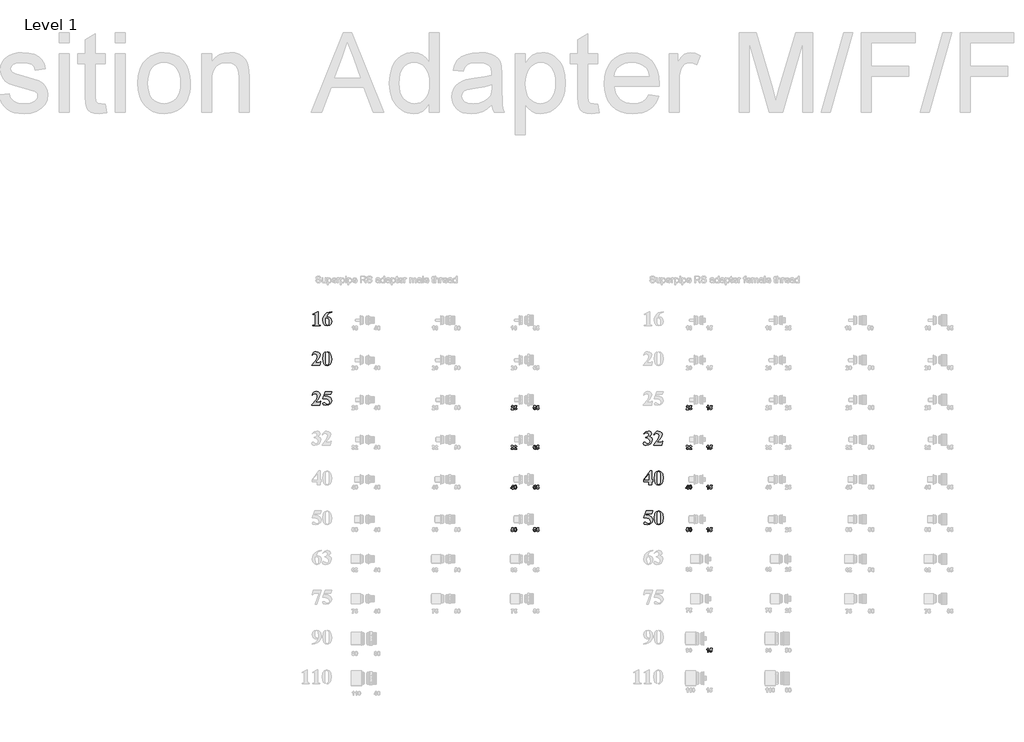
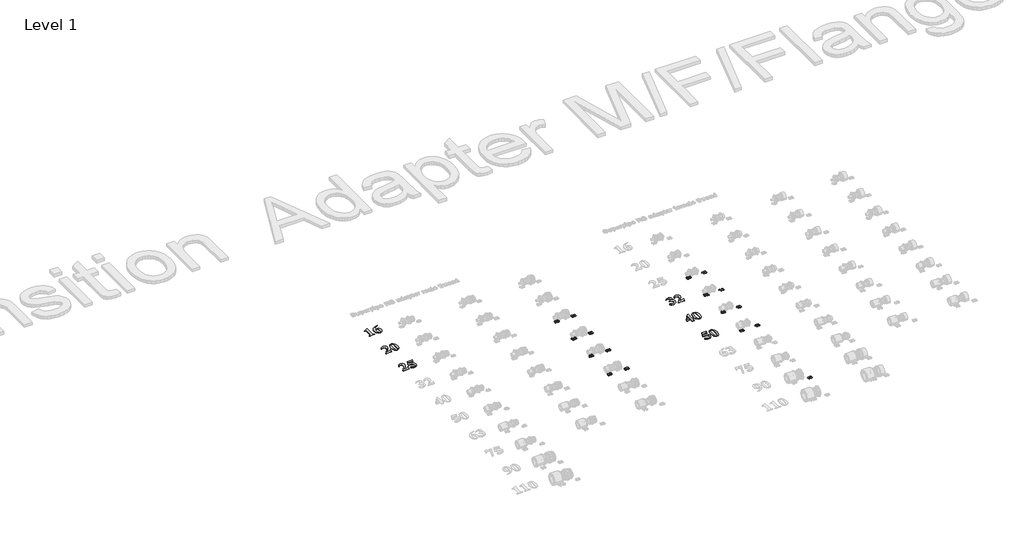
# One storey, part 34 of 57: 23 proxies.
"""IFC4 building model written with IfcOpenShell, lengths in millimetres."""

from ifc_helpers import new_model, si_unit, frame, origin, place, context, project, spatial, polyline, outline, extrude, element, save

model = new_model("IFC4")

# Units and contexts
model_context = context("Model", 3, world=origin())
ifc_project = project(units=[si_unit("LENGTHUNIT", "METRE", prefix="MILLI")], contexts=[model_context])

# Site, building, storey
site = spatial("IfcSite", under=ifc_project)
building = spatial("IfcBuilding", under=site)
storey = spatial("IfcBuildingStorey", under=building, Name="Level 1", Elevation=27.3876384)

# Proxies
placement = place(None, origin())
element("IfcBuildingElementProxy", 1, Name="100mm Arial", ObjectType="100mm Arial", at=placement, inside=storey, context=model_context, shape_type="SweptSolid", body=[
    extrude(outline(polyline([(28828.8058204, 18710.8916255), (28828.8058204, 18627.1351635), (28829.6646513, 18615.4387044), (28833.277194, 18611.2945045), (28842.0836189, 18609.6859006), (28844.510157, 18609.6859006), (28844.510157, 18606.196048), (28788.6725157, 18606.196048), (28788.6725157, 18609.6859006), (28791.4807564, 18609.6859006), (28801.1869089, 18611.1581821), (28805.0993608, 18615.1933242), (28806.1217786, 18627.1351635), (28806.1217786, 18679.4829522), (28805.4674312, 18688.1394225), (28803.0408931, 18691.1248823), (28798.9512221, 18692.3790481), (28789.9812104, 18689.95251), (28788.6725157, 18693.4423626), (28826.3247533, 18710.8916255), (28828.8058204, 18710.8916255)])), frame((0.0, 0.0, 27.3876384), z_axis=(0.0, 0.0, 1.0), x_axis=(1.0, 0.0, 0.0)), (0.0, 0.0, 1.0), 2.0),
    extrude(outline(polyline([(28930.0115453, 18710.8916255), (28930.0115453, 18709.1466992), (28907.9954831, 18700.0676296), (28894.8812715, 18686.5717153), (28887.424438, 18666.91403), (28892.9863906, 18669.4496261), (28902.9651878, 18670.7583208), (28913.5881082, 18668.7032611), (28922.2820671, 18662.5380821), (28928.0791758, 18652.8285215), (28930.0115453, 18640.1403172), (28925.7719197, 18621.8458556), (28913.748287, 18608.9906565), (28897.103326, 18604.4511217), (28879.299625, 18609.6313716), (28866.5398515, 18624.804051), (28861.9594199, 18646.520204), (28864.0621924, 18663.1481247), (28870.37051, 18678.5150634), (28880.5469746, 18691.7519652), (28894.2541886, 18701.989775), (28910.9298221, 18708.5843694), (28930.0115453, 18710.8916255)]), holes=[polyline([(28886.388388, 18661.2975485), (28884.6434617, 18646.1112369), (28886.8382518, 18626.0582168), (28892.8500682, 18612.4668768), (28899.3117484, 18609.6859006), (28906.08697, 18613.7074104), (28909.0724298, 18630.0524621), (28907.7501029, 18647.5698862), (28903.783122, 18658.6801591), (28894.5949945, 18663.7786156), (28886.388388, 18661.2975485)])]), frame((0.0, 0.0, 27.3876384), z_axis=(0.0, 0.0, 1.0), x_axis=(1.0, 0.0, 0.0)), (0.0, 0.0, 1.0), 2.0),
])
element("IfcBuildingElementProxy", 2, Name="100mm Arial", ObjectType="100mm Arial", at=placement, inside=storey, context=model_context, shape_type="SweptSolid", body=[
    extrude(outline(polyline([(28841.8109742, 18306.196048), (28779.9478842, 18306.196048), (28779.9478842, 18307.9409743), (28815.7188732, 18352.5456526), (28821.8261152, 18374.9297852), (28816.6049686, 18388.166687), (28803.8588273, 18393.4423626), (28792.8712446, 18390.5114317), (28784.6646381, 18381.718639), (28781.8563973, 18382.7274246), (28787.1150326, 18395.2281856), (28794.5480097, 18403.9937137), (28803.725913, 18409.1671476), (28814.2193272, 18410.8916255), (28828.7512914, 18407.3063472), (28839.0436301, 18397.4911369), (28842.7652307, 18385.80831), (28837.2578071, 18365.6598643), (28825.2546227, 18349.1171451), (28804.3495878, 18327.1351635), (28826.3247533, 18327.1351635), (28836.8624723, 18327.7349819), (28840.8703498, 18329.7798174), (28845.0009175, 18335.8597949), (28848.0000096, 18335.8597949), (28841.8109742, 18306.196048)])), frame((0.0, 0.0, 27.3876384), z_axis=(0.0, 0.0, 1.0), x_axis=(1.0, 0.0, 0.0)), (0.0, 0.0, 1.0), 2.0),
    extrude(outline(polyline([(28930.0115453, 18357.6713736), (28925.5674362, 18329.0982056), (28918.4514086, 18315.7658781), (28908.3090246, 18307.5047427), (28895.9582182, 18304.4511217), (28882.1760269, 18308.213619), (28871.2838698, 18319.0103504), (28865.3129502, 18332.6425871), (28861.9594199, 18356.4717368), (28866.7852317, 18387.0624758), (28871.7746303, 18397.2491647), (28878.8361289, 18404.7434868), (28895.9582182, 18410.8916255), (28913.0939396, 18404.8252802), (28924.8040309, 18388.5074929), (28930.0115453, 18357.6713736)]), holes=[polyline([(28907.3275035, 18357.6713736), (28906.9730654, 18389.0255179), (28902.8561299, 18403.2303085), (28895.9036892, 18405.6568466), (28890.0690919, 18403.8301269), (28885.7613051, 18394.505677), (28884.6434617, 18347.8561632), (28886.3611236, 18318.6831767), (28890.0554597, 18311.498988), (28896.4217142, 18309.6859006), (28902.8561299, 18312.1124387), (28906.9730654, 18325.1721214), (28907.3275035, 18357.6713736)])]), frame((0.0, 0.0, 27.3876384), z_axis=(0.0, 0.0, 1.0), x_axis=(1.0, 0.0, 0.0)), (0.0, 0.0, 1.0), 2.0),
])
element("IfcBuildingElementProxy", 3, Name="100mm Arial", ObjectType="100mm Arial", at=placement, inside=storey, context=model_context, shape_type="SweptSolid", body=[
    extrude(outline(polyline([(28841.8109742, 18006.196048), (28779.9478842, 18006.196048), (28779.9478842, 18007.9409743), (28815.7188732, 18052.5456526), (28821.8261152, 18074.9297852), (28816.6049686, 18088.166687), (28803.8588273, 18093.4423626), (28792.8712446, 18090.5114317), (28784.6646381, 18081.718639), (28781.8563973, 18082.7274246), (28787.1150326, 18095.2281856), (28794.5480097, 18103.9937137), (28803.725913, 18109.1671476), (28814.2193272, 18110.8916255), (28828.7512914, 18107.3063472), (28839.0436301, 18097.4911369), (28842.7652307, 18085.80831), (28837.2578071, 18065.6598643), (28825.2546227, 18049.1171451), (28804.3495878, 18027.1351635), (28826.3247533, 18027.1351635), (28836.8624723, 18027.7349819), (28840.8703498, 18029.7798174), (28845.0009175, 18035.8597949), (28848.0000096, 18035.8597949), (28841.8109742, 18006.196048)])), frame((0.0, 0.0, 27.3876384), z_axis=(0.0, 0.0, 1.0), x_axis=(1.0, 0.0, 0.0)), (0.0, 0.0, 1.0), 2.0),
    extrude(outline(polyline([(28881.1536091, 18109.1466992), (28930.0115453, 18109.1466992), (28923.0318402, 18088.2075837), (28878.7543355, 18088.2075837), (28875.5643921, 18079.4829522), (28899.8570378, 18075.7068227), (28917.8243258, 18066.3414761), (28926.9647404, 18055.0880647), (28930.0115453, 18041.394483), (28924.3132704, 18022.6910543), (28908.5953015, 18009.0042887), (28886.6065038, 18004.4511217), (28866.7852317, 18009.249669), (28861.9594199, 18016.9655149), (28864.4813837, 18022.8410089), (28870.3568777, 18025.3902372), (28876.4913842, 18024.0815425), (28887.1245288, 18017.1836307), (28895.3038708, 18012.4123479), (28900.729501, 18011.4308268), (28911.5807614, 18015.9976261), (28916.052135, 18026.9715766), (28912.6577081, 18039.0088416), (28902.4744273, 18048.5650395), (28887.1177127, 18054.8017878), (28868.2029843, 18056.8807039), (28861.9594199, 18056.7989104), (28881.1536091, 18109.1466992)])), frame((0.0, 0.0, 27.3876384), z_axis=(0.0, 0.0, 1.0), x_axis=(1.0, 0.0, 0.0)), (0.0, 0.0, 1.0), 2.0),
])
element("IfcBuildingElementProxy", 4, Name="100mm Arial", ObjectType="100mm Arial", at=placement, inside=storey, context=model_context, shape_type="SweptSolid", body=[
    extrude(outline(polyline([(31299.1420734, 17762.0336893), (31299.1420734, 17763.7786156), (31311.5746733, 17768.5907951), (31317.5592251, 17775.379649), (31320.0811889, 17784.6359377), (31315.3780673, 17795.773475), (31303.667976, 17800.4220677), (31293.6073853, 17797.9887135), (31285.1826631, 17790.6886508), (31283.4377368, 17791.6974363), (31297.8470109, 17806.0794459), (31317.436535, 17810.8916255), (31327.4869015, 17809.4397923), (31335.6083065, 17805.0842927), (31340.9759997, 17798.7861993), (31342.7652307, 17791.506585), (31338.7573531, 17781.7322713), (31326.1884309, 17773.4575036), (31342.4107926, 17762.1700117), (31346.6027053, 17754.6109365), (31348.0000096, 17745.3478316), (31345.0077337, 17729.585558), (31336.0309058, 17716.3793288), (31322.0305988, 17707.4331734), (31303.9678852, 17704.4511217), (31292.3668518, 17705.7325519), (31284.3919934, 17709.5768427), (31279.9478842, 17718.8740281), (31282.5243769, 17725.9491589), (31288.4816644, 17728.8800898), (31293.3347406, 17727.7895108), (31302.1956944, 17721.0551859), (31316.4822784, 17714.9206794), (31326.4065467, 17719.3784208), (31330.5507467, 17730.679545), (31328.5502159, 17740.6890148), (31322.5486238, 17749.8873665), (31312.6959247, 17757.3203435), (31299.1420734, 17762.0336893)])), frame((0.0, 0.0, 27.3876384), z_axis=(0.0, 0.0, 1.0), x_axis=(1.0, 0.0, 0.0)), (0.0, 0.0, 1.0), 2.0),
    extrude(outline(polyline([(31420.3326573, 17706.196048), (31358.4695674, 17706.196048), (31358.4695674, 17707.9409743), (31394.2405563, 17752.5456526), (31400.3477984, 17774.9297852), (31395.1266517, 17788.166687), (31382.3805104, 17793.4423626), (31371.3929277, 17790.5114317), (31363.1863212, 17781.718639), (31360.3780805, 17782.7274246), (31365.6367158, 17795.2281856), (31373.0696928, 17803.9937137), (31382.2475961, 17809.1671476), (31392.7410103, 17810.8916255), (31407.2729746, 17807.3063472), (31417.5653133, 17797.4911369), (31421.2869139, 17785.80831), (31415.7794903, 17765.6598643), (31403.7763059, 17749.1171451), (31382.871271, 17727.1351635), (31404.8464365, 17727.1351635), (31415.3841554, 17727.7349819), (31419.392033, 17729.7798174), (31423.5226007, 17735.8597949), (31426.5216927, 17735.8597949), (31420.3326573, 17706.196048)])), frame((0.0, 0.0, 27.3876384), z_axis=(0.0, 0.0, 1.0), x_axis=(1.0, 0.0, 0.0)), (0.0, 0.0, 1.0), 2.0),
])
element("IfcBuildingElementProxy", 5, Name="100mm Arial", ObjectType="100mm Arial", at=placement, inside=storey, context=model_context, shape_type="SweptSolid", body=[
    extrude(outline(polyline([(31283.4377368, 17444.5844264), (31332.7046401, 17510.8916255), (31342.7652307, 17510.8916255), (31342.7652307, 17444.5844264), (31351.4898622, 17444.5844264), (31351.4898622, 17428.8800898), (31342.7652307, 17428.8800898), (31342.7652307, 17406.196048), (31320.0811889, 17406.196048), (31320.0811889, 17428.8800898), (31283.4377368, 17428.8800898), (31283.4377368, 17444.5844264)]), holes=[polyline([(31288.7270446, 17444.5844264), (31320.0811889, 17444.5844264), (31320.0811889, 17486.7625666), (31288.7270446, 17444.5844264)])]), frame((0.0, 0.0, 27.3876384), z_axis=(0.0, 0.0, 1.0), x_axis=(1.0, 0.0, 0.0)), (0.0, 0.0, 1.0), 2.0),
    extrude(outline(polyline([(31430.0115453, 17457.6713736), (31425.5674362, 17429.0982056), (31418.4514086, 17415.7658781), (31408.3090246, 17407.5047427), (31395.9582182, 17404.4511217), (31382.1760269, 17408.213619), (31371.2838698, 17419.0103504), (31365.3129502, 17432.6425871), (31361.9594199, 17456.4717368), (31366.7852317, 17487.0624758), (31371.7746303, 17497.2491647), (31378.8361289, 17504.7434868), (31395.9582182, 17510.8916255), (31413.0939396, 17504.8252802), (31424.8040309, 17488.5074929), (31430.0115453, 17457.6713736)]), holes=[polyline([(31407.3275035, 17457.6713736), (31406.9730654, 17489.0255179), (31402.8561299, 17503.2303085), (31395.9036892, 17505.6568466), (31390.0690919, 17503.8301269), (31385.7613051, 17494.505677), (31384.6434617, 17447.8561632), (31386.3611236, 17418.6831767), (31390.0554597, 17411.498988), (31396.4217142, 17409.6859006), (31402.8561299, 17412.1124387), (31406.9730654, 17425.1721214), (31407.3275035, 17457.6713736)])]), frame((0.0, 0.0, 27.3876384), z_axis=(0.0, 0.0, 1.0), x_axis=(1.0, 0.0, 0.0)), (0.0, 0.0, 1.0), 2.0),
])
element("IfcBuildingElementProxy", 6, Name="100mm Arial", ObjectType="100mm Arial", at=placement, inside=storey, context=model_context, shape_type="SweptSolid", body=[
    extrude(outline(polyline([(31302.631926, 17209.1466992), (31351.4898622, 17209.1466992), (31344.510157, 17188.2075837), (31300.2326524, 17188.2075837), (31297.042709, 17179.4829522), (31321.3353547, 17175.7068227), (31339.3026426, 17166.3414761), (31348.4430573, 17155.0880647), (31351.4898622, 17141.394483), (31345.7915873, 17122.6910543), (31330.0736184, 17109.0042887), (31308.0848207, 17104.4511217), (31288.2635486, 17109.249669), (31283.4377368, 17116.9655149), (31285.9597006, 17122.8410089), (31291.8351946, 17125.3902372), (31297.9697011, 17124.0815425), (31308.6028457, 17117.1836307), (31316.7821877, 17112.4123479), (31322.2078178, 17111.4308268), (31333.0590782, 17115.9976261), (31337.5304518, 17126.9715766), (31334.1360249, 17139.0088416), (31323.9527441, 17148.5650395), (31308.5960295, 17154.8017878), (31289.6813012, 17156.8807039), (31283.4377368, 17156.7989104), (31302.631926, 17209.1466992)])), frame((0.0, 0.0, 27.3876384), z_axis=(0.0, 0.0, 1.0), x_axis=(1.0, 0.0, 0.0)), (0.0, 0.0, 1.0), 2.0),
    extrude(outline(polyline([(31430.0115453, 17157.6713736), (31425.5674362, 17129.0982056), (31418.4514086, 17115.7658781), (31408.3090246, 17107.5047427), (31395.9582182, 17104.4511217), (31382.1760269, 17108.213619), (31371.2838698, 17119.0103504), (31365.3129502, 17132.6425871), (31361.9594199, 17156.4717368), (31366.7852317, 17187.0624758), (31371.7746303, 17197.2491647), (31378.8361289, 17204.7434868), (31395.9582182, 17210.8916255), (31413.0939396, 17204.8252802), (31424.8040309, 17188.5074929), (31430.0115453, 17157.6713736)]), holes=[polyline([(31407.3275035, 17157.6713736), (31406.9730654, 17189.0255179), (31402.8561299, 17203.2303085), (31395.9036892, 17205.6568466), (31390.0690919, 17203.8301269), (31385.7613051, 17194.505677), (31384.6434617, 17147.8561632), (31386.3611236, 17118.6831767), (31390.0554597, 17111.498988), (31396.4217142, 17109.6859006), (31402.8561299, 17112.1124387), (31406.9730654, 17125.1721214), (31407.3275035, 17157.6713736)])]), frame((0.0, 0.0, 27.3876384), z_axis=(0.0, 0.0, 1.0), x_axis=(1.0, 0.0, 0.0)), (0.0, 0.0, 1.0), 2.0),
])
element("IfcBuildingElementProxy", 7, Name="30mm Arial", ObjectType="30mm Arial", at=placement, inside=storey, context=model_context, shape_type="SweptSolid", body=[
    extrude(outline(polyline([(30302.0287378, 17979.4089076), (30302.0287378, 17973.5788539), (30282.5952254, 17973.5788539), (30284.4550733, 17979.298835), (30290.566002, 17986.4687383), (30295.0751842, 17991.3574813), (30296.1986841, 17994.864623), (30295.2535777, 17997.8138103), (30292.6459951, 17998.84242), (30290.0346169, 17997.8289927), (30288.911117, 17994.4698797), (30283.0810633, 17995.0012648), (30286.2086442, 18002.0497087), (30292.7750458, 18004.1866359), (30299.5615927, 18001.7916074), (30302.0287378, 17995.8362986), (30301.3531196, 17991.979961), (30299.2123968, 17988.146397), (30295.5875912, 17984.3204243), (30292.2588431, 17981.003063), (30291.1657081, 17979.4089076), (30302.0287378, 17979.4089076)])), frame((0.0, 0.0, 27.3876384), z_axis=(0.0, 0.0, 1.0), x_axis=(1.0, 0.0, 0.0)), (0.0, 0.0, 1.0), 2.0),
    extrude(outline(polyline([(30305.9154403, 17982.1948838), (30311.2596562, 17982.8097723), (30312.7475345, 17979.6138705), (30315.6018316, 17978.437232), (30318.7256169, 17979.685987), (30320.0047368, 17983.4474344), (30318.8167115, 17986.9773498), (30315.7232911, 17988.1539882), (30311.4570278, 17985.7247992), (30306.4012781, 17986.4763295), (30309.8021428, 18003.7007981), (30324.3772771, 18003.7007981), (30324.3772771, 17997.8707444), (30314.5162878, 17997.8707444), (30313.3396493, 17992.3063832), (30317.0973011, 17993.4982041), (30323.2917332, 17990.7387972), (30325.8347905, 17983.5764851), (30323.7168413, 17977.0252659), (30315.6929262, 17973.0930161), (30309.0088607, 17975.5601612), (30305.9154403, 17982.1948838)])), frame((0.0, 0.0, 27.3876384), z_axis=(0.0, 0.0, 1.0), x_axis=(1.0, 0.0, 0.0)), (0.0, 0.0, 1.0), 2.0),
])
element("IfcBuildingElementProxy", 8, Name="30mm Arial", ObjectType="30mm Arial", at=placement, inside=storey, context=model_context, shape_type="SweptSolid", body=[
    extrude(outline(polyline([(30470.2929, 17996.0640351), (30464.4628463, 17995.4415554), (30463.430441, 17998.0111819), (30461.2593532, 17998.84242), (30458.2684142, 17997.2292867), (30456.7273974, 17990.4541266), (30462.0564309, 17993.0123663), (30468.2167025, 17990.2795286), (30470.7787378, 17983.2272892), (30468.1597684, 17975.8676055), (30461.42636, 17973.0930161), (30454.1843401, 17976.67607), (30451.3452254, 17988.4196808), (30454.3095952, 18000.4897138), (30462.0108836, 18004.1866359), (30467.514515, 18002.1066428), (30470.2929, 17996.0640351)]), holes=[polyline([(30457.1752792, 17983.3563398), (30458.435421, 17979.7163519), (30461.3124918, 17978.437232), (30463.9086876, 17979.4848198), (30464.9486841, 17982.9236405), (30463.8289798, 17986.5256724), (30461.0316168, 17987.6681504), (30458.2949835, 17986.5750153), (30457.1752792, 17983.3563398)])]), frame((0.0, 0.0, 27.3876384), z_axis=(0.0, 0.0, 1.0), x_axis=(1.0, 0.0, 0.0)), (0.0, 0.0, 1.0), 2.0),
    extrude(outline(polyline([(30474.6654403, 17982.1948838), (30480.0096562, 17982.8097723), (30481.4975345, 17979.6138705), (30484.3518316, 17978.437232), (30487.4756169, 17979.685987), (30488.7547368, 17983.4474344), (30487.5667115, 17986.9773498), (30484.4732911, 17988.1539882), (30480.2070278, 17985.7247992), (30475.1512781, 17986.4763295), (30478.5521428, 18003.7007981), (30493.1272771, 18003.7007981), (30493.1272771, 17997.8707444), (30483.2662878, 17997.8707444), (30482.0896493, 17992.3063832), (30485.8473011, 17993.4982041), (30492.0417332, 17990.7387972), (30494.5847905, 17983.5764851), (30492.4668413, 17977.0252659), (30484.4429262, 17973.0930161), (30477.7588607, 17975.5601612), (30474.6654403, 17982.1948838)])), frame((0.0, 0.0, 27.3876384), z_axis=(0.0, 0.0, 1.0), x_axis=(1.0, 0.0, 0.0)), (0.0, 0.0, 1.0), 2.0),
])
element("IfcBuildingElementProxy", 9, Name="30mm Arial", ObjectType="30mm Arial", at=placement, inside=storey, context=model_context, shape_type="SweptSolid", body=[
    extrude(outline(polyline([(30282.5952254, 17682.1341541), (30288.4252792, 17682.8097723), (30289.7385595, 17679.560732), (30292.3271641, 17678.437232), (30295.0827754, 17679.7239431), (30296.1986841, 17683.1893331), (30295.1776656, 17686.4611471), (30292.6839512, 17687.6681504), (30290.3686304, 17687.2354511), (30290.8772419, 17692.0406907), (30293.750517, 17692.9971839), (30294.7411707, 17695.6996567), (30294.0010271, 17697.9884083), (30292.0311067, 17698.84242), (30289.9549091, 17697.8517664), (30288.911117, 17694.9557175), (30283.0810633, 17695.8287074), (30284.6866054, 17700.4631446), (30287.6851356, 17703.1921867), (30291.9931506, 17704.1866359), (30298.5367786, 17701.4310246), (30300.5712244, 17696.3297276), (30296.2062753, 17689.8999678), (30300.4421737, 17687.3986622), (30302.0287378, 17682.7034953), (30299.2161924, 17675.9055616), (30292.2132958, 17673.0930161), (30285.6279161, 17675.5943217), (30282.5952254, 17682.1341541)])), frame((0.0, 0.0, 27.3876384), z_axis=(0.0, 0.0, 1.0), x_axis=(1.0, 0.0, 0.0)), (0.0, 0.0, 1.0), 2.0),
    extrude(outline(polyline([(30325.3489527, 17679.4089076), (30325.3489527, 17673.5788539), (30305.9154403, 17673.5788539), (30307.7752882, 17679.298835), (30313.8862169, 17686.4687383), (30318.395399, 17691.3574813), (30319.518899, 17694.864623), (30318.5737926, 17697.8138103), (30315.96621, 17698.84242), (30313.3548318, 17697.8289927), (30312.2313318, 17694.4698797), (30306.4012781, 17695.0012648), (30309.528859, 17702.0497087), (30316.0952607, 17704.1866359), (30322.8818076, 17701.7916074), (30325.3489527, 17695.8362986), (30324.6733345, 17691.979961), (30322.5326116, 17688.146397), (30318.9078061, 17684.3204243), (30315.579058, 17681.003063), (30314.4859229, 17679.4089076), (30325.3489527, 17679.4089076)])), frame((0.0, 0.0, 27.3876384), z_axis=(0.0, 0.0, 1.0), x_axis=(1.0, 0.0, 0.0)), (0.0, 0.0, 1.0), 2.0),
])
element("IfcBuildingElementProxy", 10, Name="30mm Arial", ObjectType="30mm Arial", at=placement, inside=storey, context=model_context, shape_type="SweptSolid", body=[
    extrude(outline(polyline([(30470.2929, 17696.0640351), (30464.4628463, 17695.4415554), (30463.430441, 17698.0111819), (30461.2593532, 17698.84242), (30458.2684142, 17697.2292867), (30456.7273974, 17690.4541266), (30462.0564309, 17693.0123663), (30468.2167025, 17690.2795286), (30470.7787378, 17683.2272892), (30468.1597684, 17675.8676055), (30461.42636, 17673.0930161), (30454.1843401, 17676.67607), (30451.3452254, 17688.4196808), (30454.3095952, 17700.4897138), (30462.0108836, 17704.1866359), (30467.514515, 17702.1066428), (30470.2929, 17696.0640351)]), holes=[polyline([(30457.1752792, 17683.3563398), (30458.435421, 17679.7163519), (30461.3124918, 17678.437232), (30463.9086876, 17679.4848198), (30464.9486841, 17682.9236405), (30463.8289798, 17686.5256724), (30461.0316168, 17687.6681504), (30458.2949835, 17686.5750153), (30457.1752792, 17683.3563398)])]), frame((0.0, 0.0, 27.3876384), z_axis=(0.0, 0.0, 1.0), x_axis=(1.0, 0.0, 0.0)), (0.0, 0.0, 1.0), 2.0),
    extrude(outline(polyline([(30474.6654403, 17682.1948838), (30480.0096562, 17682.8097723), (30481.4975345, 17679.6138705), (30484.3518316, 17678.437232), (30487.4756169, 17679.685987), (30488.7547368, 17683.4474344), (30487.5667115, 17686.9773498), (30484.4732911, 17688.1539882), (30480.2070278, 17685.7247992), (30475.1512781, 17686.4763295), (30478.5521428, 17703.7007981), (30493.1272771, 17703.7007981), (30493.1272771, 17697.8707444), (30483.2662878, 17697.8707444), (30482.0896493, 17692.3063832), (30485.8473011, 17693.4982041), (30492.0417332, 17690.7387972), (30494.5847905, 17683.5764851), (30492.4668413, 17677.0252659), (30484.4429262, 17673.0930161), (30477.7588607, 17675.5601612), (30474.6654403, 17682.1948838)])), frame((0.0, 0.0, 27.3876384), z_axis=(0.0, 0.0, 1.0), x_axis=(1.0, 0.0, 0.0)), (0.0, 0.0, 1.0), 2.0),
])
element("IfcBuildingElementProxy", 11, Name="30mm Arial", ObjectType="30mm Arial", at=placement, inside=storey, context=model_context, shape_type="SweptSolid", body=[
    extrude(outline(polyline([(30293.2836573, 17373.5788539), (30293.2836573, 17379.8947455), (30281.6235498, 17379.8947455), (30281.6235498, 17384.7303499), (30294.0579613, 17403.7007981), (30299.113711, 17403.7007981), (30299.113711, 17384.7531236), (30303.0004134, 17384.7531236), (30303.0004134, 17379.8947455), (30299.113711, 17379.8947455), (30299.113711, 17373.5788539), (30293.2836573, 17373.5788539)]), holes=[polyline([(30293.2836573, 17384.7531236), (30293.2836573, 17394.6976162), (30286.7703941, 17384.7531236), (30293.2836573, 17384.7531236)])]), frame((0.0, 0.0, 27.3876384), z_axis=(0.0, 0.0, 1.0), x_axis=(1.0, 0.0, 0.0)), (0.0, 0.0, 1.0), 2.0),
    extrude(outline(polyline([(30315.6321965, 17404.1866359), (30322.4263346, 17401.0286902), (30325.3489527, 17388.6322348), (30322.4111522, 17376.2054146), (30315.6321965, 17373.0930161), (30308.5913439, 17376.5090632), (30305.9154403, 17388.6929645), (30308.8532408, 17401.0742375), (30315.6321965, 17404.1866359)]), holes=[polyline([(30315.6321965, 17398.84242), (30313.6888453, 17398.2009623), (30312.3679737, 17395.8970283), (30311.745494, 17388.6322348), (30312.2996528, 17381.6141558), (30313.7002321, 17379.0710985), (30315.6321965, 17378.437232), (30317.5755477, 17379.0786898), (30318.8964193, 17381.3826237), (30319.518899, 17388.6322348), (30318.9647402, 17395.6465182), (30317.5641609, 17398.2009623), (30315.6321965, 17398.84242)])]), frame((0.0, 0.0, 27.3876384), z_axis=(0.0, 0.0, 1.0), x_axis=(1.0, 0.0, 0.0)), (0.0, 0.0, 1.0), 2.0),
])
element("IfcBuildingElementProxy", 12, Name="30mm Arial", ObjectType="30mm Arial", at=placement, inside=storey, context=model_context, shape_type="SweptSolid", body=[
    extrude(outline(polyline([(30470.2929, 17396.0640351), (30464.4628463, 17395.4415554), (30463.430441, 17398.0111819), (30461.2593532, 17398.84242), (30458.2684142, 17397.2292867), (30456.7273974, 17390.4541266), (30462.0564309, 17393.0123663), (30468.2167025, 17390.2795286), (30470.7787378, 17383.2272892), (30468.1597684, 17375.8676055), (30461.42636, 17373.0930161), (30454.1843401, 17376.67607), (30451.3452254, 17388.4196808), (30454.3095952, 17400.4897138), (30462.0108836, 17404.1866359), (30467.514515, 17402.1066428), (30470.2929, 17396.0640351)]), holes=[polyline([(30457.1752792, 17383.3563398), (30458.435421, 17379.7163519), (30461.3124918, 17378.437232), (30463.9086876, 17379.4848198), (30464.9486841, 17382.9236405), (30463.8289798, 17386.5256724), (30461.0316168, 17387.6681504), (30458.2949835, 17386.5750153), (30457.1752792, 17383.3563398)])]), frame((0.0, 0.0, 27.3876384), z_axis=(0.0, 0.0, 1.0), x_axis=(1.0, 0.0, 0.0)), (0.0, 0.0, 1.0), 2.0),
    extrude(outline(polyline([(30474.6654403, 17382.1948838), (30480.0096562, 17382.8097723), (30481.4975345, 17379.6138705), (30484.3518316, 17378.437232), (30487.4756169, 17379.685987), (30488.7547368, 17383.4474344), (30487.5667115, 17386.9773498), (30484.4732911, 17388.1539882), (30480.2070278, 17385.7247992), (30475.1512781, 17386.4763295), (30478.5521428, 17403.7007981), (30493.1272771, 17403.7007981), (30493.1272771, 17397.8707444), (30483.2662878, 17397.8707444), (30482.0896493, 17392.3063832), (30485.8473011, 17393.4982041), (30492.0417332, 17390.7387972), (30494.5847905, 17383.5764851), (30492.4668413, 17377.0252659), (30484.4429262, 17373.0930161), (30477.7588607, 17375.5601612), (30474.6654403, 17382.1948838)])), frame((0.0, 0.0, 27.3876384), z_axis=(0.0, 0.0, 1.0), x_axis=(1.0, 0.0, 0.0)), (0.0, 0.0, 1.0), 2.0),
])
element("IfcBuildingElementProxy", 13, Name="30mm Arial", ObjectType="30mm Arial", at=placement, inside=storey, context=model_context, shape_type="SweptSolid", body=[
    extrude(outline(polyline([(30282.5952254, 17062.1948838), (30287.9394414, 17062.8097723), (30289.4273196, 17059.6138705), (30292.2816168, 17058.437232), (30295.4054021, 17059.685987), (30296.6845219, 17063.4474344), (30295.4964967, 17066.9773498), (30292.4030762, 17068.1539882), (30288.136813, 17065.7247992), (30283.0810633, 17066.4763295), (30286.4819279, 17083.7007981), (30301.0570622, 17083.7007981), (30301.0570622, 17077.8707444), (30291.1960729, 17077.8707444), (30290.0194345, 17072.3063832), (30293.7770863, 17073.4982041), (30299.9715184, 17070.7387972), (30302.5145756, 17063.5764851), (30300.3966264, 17057.0252659), (30292.3727114, 17053.0930161), (30285.6886459, 17055.5601612), (30282.5952254, 17062.1948838)])), frame((0.0, 0.0, 27.3876384), z_axis=(0.0, 0.0, 1.0), x_axis=(1.0, 0.0, 0.0)), (0.0, 0.0, 1.0), 2.0),
    extrude(outline(polyline([(30315.6321965, 17084.1866359), (30322.4263346, 17081.0286902), (30325.3489527, 17068.6322348), (30322.4111522, 17056.2054146), (30315.6321965, 17053.0930161), (30308.5913439, 17056.5090632), (30305.9154403, 17068.6929645), (30308.8532408, 17081.0742375), (30315.6321965, 17084.1866359)]), holes=[polyline([(30315.6321965, 17078.84242), (30313.6888453, 17078.2009623), (30312.3679737, 17075.8970283), (30311.745494, 17068.6322348), (30312.2996528, 17061.6141558), (30313.7002321, 17059.0710985), (30315.6321965, 17058.437232), (30317.5755477, 17059.0786898), (30318.8964193, 17061.3826237), (30319.518899, 17068.6322348), (30318.9647402, 17075.6465182), (30317.5641609, 17078.2009623), (30315.6321965, 17078.84242)])]), frame((0.0, 0.0, 27.3876384), z_axis=(0.0, 0.0, 1.0), x_axis=(1.0, 0.0, 0.0)), (0.0, 0.0, 1.0), 2.0),
])
element("IfcBuildingElementProxy", 14, Name="30mm Arial", ObjectType="30mm Arial", at=placement, inside=storey, context=model_context, shape_type="SweptSolid", body=[
    extrude(outline(polyline([(30470.2929, 17076.0640351), (30464.4628463, 17075.4415554), (30463.430441, 17078.0111819), (30461.2593532, 17078.84242), (30458.2684142, 17077.2292867), (30456.7273974, 17070.4541266), (30462.0564309, 17073.0123663), (30468.2167025, 17070.2795286), (30470.7787378, 17063.2272892), (30468.1597684, 17055.8676055), (30461.42636, 17053.0930161), (30454.1843401, 17056.67607), (30451.3452254, 17068.4196808), (30454.3095952, 17080.4897138), (30462.0108836, 17084.1866359), (30467.514515, 17082.1066428), (30470.2929, 17076.0640351)]), holes=[polyline([(30457.1752792, 17063.3563398), (30458.435421, 17059.7163519), (30461.3124918, 17058.437232), (30463.9086876, 17059.4848198), (30464.9486841, 17062.9236405), (30463.8289798, 17066.5256724), (30461.0316168, 17067.6681504), (30458.2949835, 17066.5750153), (30457.1752792, 17063.3563398)])]), frame((0.0, 0.0, 27.3876384), z_axis=(0.0, 0.0, 1.0), x_axis=(1.0, 0.0, 0.0)), (0.0, 0.0, 1.0), 2.0),
    extrude(outline(polyline([(30474.6654403, 17062.1948838), (30480.0096562, 17062.8097723), (30481.4975345, 17059.6138705), (30484.3518316, 17058.437232), (30487.4756169, 17059.685987), (30488.7547368, 17063.4474344), (30487.5667115, 17066.9773498), (30484.4732911, 17068.1539882), (30480.2070278, 17065.7247992), (30475.1512781, 17066.4763295), (30478.5521428, 17083.7007981), (30493.1272771, 17083.7007981), (30493.1272771, 17077.8707444), (30483.2662878, 17077.8707444), (30482.0896493, 17072.3063832), (30485.8473011, 17073.4982041), (30492.0417332, 17070.7387972), (30494.5847905, 17063.5764851), (30492.4668413, 17057.0252659), (30484.4429262, 17053.0930161), (30477.7588607, 17055.5601612), (30474.6654403, 17062.1948838)])), frame((0.0, 0.0, 27.3876384), z_axis=(0.0, 0.0, 1.0), x_axis=(1.0, 0.0, 0.0)), (0.0, 0.0, 1.0), 2.0),
])
element("IfcBuildingElementProxy", 15, Name="30mm Arial", ObjectType="30mm Arial", at=placement, inside=storey, context=model_context, shape_type="SweptSolid", body=[
    extrude(outline(polyline([(31622.0287378, 17979.4089076), (31622.0287378, 17973.5788539), (31602.5952254, 17973.5788539), (31604.4550733, 17979.298835), (31610.566002, 17986.4687383), (31615.0751842, 17991.3574813), (31616.1986841, 17994.864623), (31615.2535777, 17997.8138103), (31612.6459951, 17998.84242), (31610.0346169, 17997.8289927), (31608.911117, 17994.4698797), (31603.0810633, 17995.0012648), (31606.2086442, 18002.0497087), (31612.7750458, 18004.1866359), (31619.5615927, 18001.7916074), (31622.0287378, 17995.8362986), (31621.3531196, 17991.979961), (31619.2123968, 17988.146397), (31615.5875912, 17984.3204243), (31612.2588431, 17981.003063), (31611.1657081, 17979.4089076), (31622.0287378, 17979.4089076)])), frame((0.0, 0.0, 27.3876384), z_axis=(0.0, 0.0, 1.0), x_axis=(1.0, 0.0, 0.0)), (0.0, 0.0, 1.0), 2.0),
    extrude(outline(polyline([(31625.9154403, 17982.1948838), (31631.2596562, 17982.8097723), (31632.7475345, 17979.6138705), (31635.6018316, 17978.437232), (31638.7256169, 17979.685987), (31640.0047368, 17983.4474344), (31638.8167115, 17986.9773498), (31635.7232911, 17988.1539882), (31631.4570278, 17985.7247992), (31626.4012781, 17986.4763295), (31629.8021428, 18003.7007981), (31644.3772771, 18003.7007981), (31644.3772771, 17997.8707444), (31634.5162878, 17997.8707444), (31633.3396493, 17992.3063832), (31637.0973011, 17993.4982041), (31643.2917332, 17990.7387972), (31645.8347905, 17983.5764851), (31643.7168413, 17977.0252659), (31635.6929262, 17973.0930161), (31629.0088607, 17975.5601612), (31625.9154403, 17982.1948838)])), frame((0.0, 0.0, 27.3876384), z_axis=(0.0, 0.0, 1.0), x_axis=(1.0, 0.0, 0.0)), (0.0, 0.0, 1.0), 2.0),
])
element("IfcBuildingElementProxy", 16, Name="30mm Arial", ObjectType="30mm Arial", at=placement, inside=storey, context=model_context, shape_type="SweptSolid", body=[
    extrude(outline(polyline([(31770.9203597, 17973.5788539), (31765.090306, 17973.5788539), (31765.090306, 17995.4567378), (31757.8027389, 17990.5831773), (31757.8027389, 17996.413231), (31762.6687082, 17999.2713237), (31766.2745357, 18004.1866359), (31770.9203597, 18004.1866359), (31770.9203597, 17973.5788539)])), frame((0.0, 0.0, 27.3876384), z_axis=(0.0, 0.0, 1.0), x_axis=(1.0, 0.0, 0.0)), (0.0, 0.0, 1.0), 2.0),
    extrude(outline(polyline([(31779.6654403, 17982.1948838), (31785.0096562, 17982.8097723), (31786.4975345, 17979.6138705), (31789.3518316, 17978.437232), (31792.4756169, 17979.685987), (31793.7547368, 17983.4474344), (31792.5667115, 17986.9773498), (31789.4732911, 17988.1539882), (31785.2070278, 17985.7247992), (31780.1512781, 17986.4763295), (31783.5521428, 18003.7007981), (31798.1272771, 18003.7007981), (31798.1272771, 17997.8707444), (31788.2662878, 17997.8707444), (31787.0896493, 17992.3063832), (31790.8473011, 17993.4982041), (31797.0417332, 17990.7387972), (31799.5847905, 17983.5764851), (31797.4668413, 17977.0252659), (31789.4429262, 17973.0930161), (31782.7588607, 17975.5601612), (31779.6654403, 17982.1948838)])), frame((0.0, 0.0, 27.3876384), z_axis=(0.0, 0.0, 1.0), x_axis=(1.0, 0.0, 0.0)), (0.0, 0.0, 1.0), 2.0),
])
element("IfcBuildingElementProxy", 17, Name="30mm Arial", ObjectType="30mm Arial", at=placement, inside=storey, context=model_context, shape_type="SweptSolid", body=[
    extrude(outline(polyline([(31602.5952254, 17682.1341541), (31608.4252792, 17682.8097723), (31609.7385595, 17679.560732), (31612.3271641, 17678.437232), (31615.0827754, 17679.7239431), (31616.1986841, 17683.1893331), (31615.1776656, 17686.4611471), (31612.6839512, 17687.6681504), (31610.3686304, 17687.2354511), (31610.8772419, 17692.0406907), (31613.750517, 17692.9971839), (31614.7411707, 17695.6996567), (31614.0010271, 17697.9884083), (31612.0311067, 17698.84242), (31609.9549091, 17697.8517664), (31608.911117, 17694.9557175), (31603.0810633, 17695.8287074), (31604.6866054, 17700.4631446), (31607.6851356, 17703.1921867), (31611.9931506, 17704.1866359), (31618.5367786, 17701.4310246), (31620.5712244, 17696.3297276), (31616.2062753, 17689.8999678), (31620.4421737, 17687.3986622), (31622.0287378, 17682.7034953), (31619.2161924, 17675.9055616), (31612.2132958, 17673.0930161), (31605.6279161, 17675.5943217), (31602.5952254, 17682.1341541)])), frame((0.0, 0.0, 27.3876384), z_axis=(0.0, 0.0, 1.0), x_axis=(1.0, 0.0, 0.0)), (0.0, 0.0, 1.0), 2.0),
    extrude(outline(polyline([(31645.3489527, 17679.4089076), (31645.3489527, 17673.5788539), (31625.9154403, 17673.5788539), (31627.7752882, 17679.298835), (31633.8862169, 17686.4687383), (31638.395399, 17691.3574813), (31639.518899, 17694.864623), (31638.5737926, 17697.8138103), (31635.96621, 17698.84242), (31633.3548318, 17697.8289927), (31632.2313318, 17694.4698797), (31626.4012781, 17695.0012648), (31629.528859, 17702.0497087), (31636.0952607, 17704.1866359), (31642.8818076, 17701.7916074), (31645.3489527, 17695.8362986), (31644.6733345, 17691.979961), (31642.5326116, 17688.146397), (31638.9078061, 17684.3204243), (31635.579058, 17681.003063), (31634.4859229, 17679.4089076), (31645.3489527, 17679.4089076)])), frame((0.0, 0.0, 27.3876384), z_axis=(0.0, 0.0, 1.0), x_axis=(1.0, 0.0, 0.0)), (0.0, 0.0, 1.0), 2.0),
])
element("IfcBuildingElementProxy", 18, Name="30mm Arial", ObjectType="30mm Arial", at=placement, inside=storey, context=model_context, shape_type="SweptSolid", body=[
    extrude(outline(polyline([(31770.9203597, 17673.5788539), (31765.090306, 17673.5788539), (31765.090306, 17695.4567378), (31757.8027389, 17690.5831773), (31757.8027389, 17696.413231), (31762.6687082, 17699.2713237), (31766.2745357, 17704.1866359), (31770.9203597, 17704.1866359), (31770.9203597, 17673.5788539)])), frame((0.0, 0.0, 27.3876384), z_axis=(0.0, 0.0, 1.0), x_axis=(1.0, 0.0, 0.0)), (0.0, 0.0, 1.0), 2.0),
    extrude(outline(polyline([(31779.6654403, 17682.1948838), (31785.0096562, 17682.8097723), (31786.4975345, 17679.6138705), (31789.3518316, 17678.437232), (31792.4756169, 17679.685987), (31793.7547368, 17683.4474344), (31792.5667115, 17686.9773498), (31789.4732911, 17688.1539882), (31785.2070278, 17685.7247992), (31780.1512781, 17686.4763295), (31783.5521428, 17703.7007981), (31798.1272771, 17703.7007981), (31798.1272771, 17697.8707444), (31788.2662878, 17697.8707444), (31787.0896493, 17692.3063832), (31790.8473011, 17693.4982041), (31797.0417332, 17690.7387972), (31799.5847905, 17683.5764851), (31797.4668413, 17677.0252659), (31789.4429262, 17673.0930161), (31782.7588607, 17675.5601612), (31779.6654403, 17682.1948838)])), frame((0.0, 0.0, 27.3876384), z_axis=(0.0, 0.0, 1.0), x_axis=(1.0, 0.0, 0.0)), (0.0, 0.0, 1.0), 2.0),
])
element("IfcBuildingElementProxy", 19, Name="30mm Arial", ObjectType="30mm Arial", at=placement, inside=storey, context=model_context, shape_type="SweptSolid", body=[
    extrude(outline(polyline([(31613.2836573, 17373.5788539), (31613.2836573, 17379.8947455), (31601.6235498, 17379.8947455), (31601.6235498, 17384.7303499), (31614.0579613, 17403.7007981), (31619.113711, 17403.7007981), (31619.113711, 17384.7531236), (31623.0004134, 17384.7531236), (31623.0004134, 17379.8947455), (31619.113711, 17379.8947455), (31619.113711, 17373.5788539), (31613.2836573, 17373.5788539)]), holes=[polyline([(31613.2836573, 17384.7531236), (31613.2836573, 17394.6976162), (31606.7703941, 17384.7531236), (31613.2836573, 17384.7531236)])]), frame((0.0, 0.0, 27.3876384), z_axis=(0.0, 0.0, 1.0), x_axis=(1.0, 0.0, 0.0)), (0.0, 0.0, 1.0), 2.0),
    extrude(outline(polyline([(31635.6321965, 17404.1866359), (31642.4263346, 17401.0286902), (31645.3489527, 17388.6322348), (31642.4111522, 17376.2054146), (31635.6321965, 17373.0930161), (31628.5913439, 17376.5090632), (31625.9154403, 17388.6929645), (31628.8532408, 17401.0742375), (31635.6321965, 17404.1866359)]), holes=[polyline([(31635.6321965, 17398.84242), (31633.6888453, 17398.2009623), (31632.3679737, 17395.8970283), (31631.745494, 17388.6322348), (31632.2996528, 17381.6141558), (31633.7002321, 17379.0710985), (31635.6321965, 17378.437232), (31637.5755477, 17379.0786898), (31638.8964193, 17381.3826237), (31639.518899, 17388.6322348), (31638.9647402, 17395.6465182), (31637.5641609, 17398.2009623), (31635.6321965, 17398.84242)])]), frame((0.0, 0.0, 27.3876384), z_axis=(0.0, 0.0, 1.0), x_axis=(1.0, 0.0, 0.0)), (0.0, 0.0, 1.0), 2.0),
])
element("IfcBuildingElementProxy", 20, Name="30mm Arial", ObjectType="30mm Arial", at=placement, inside=storey, context=model_context, shape_type="SweptSolid", body=[
    extrude(outline(polyline([(31770.9203597, 17373.5788539), (31765.090306, 17373.5788539), (31765.090306, 17395.4567378), (31757.8027389, 17390.5831773), (31757.8027389, 17396.413231), (31762.6687082, 17399.2713237), (31766.2745357, 17404.1866359), (31770.9203597, 17404.1866359), (31770.9203597, 17373.5788539)])), frame((0.0, 0.0, 27.3876384), z_axis=(0.0, 0.0, 1.0), x_axis=(1.0, 0.0, 0.0)), (0.0, 0.0, 1.0), 2.0),
    extrude(outline(polyline([(31779.6654403, 17382.1948838), (31785.0096562, 17382.8097723), (31786.4975345, 17379.6138705), (31789.3518316, 17378.437232), (31792.4756169, 17379.685987), (31793.7547368, 17383.4474344), (31792.5667115, 17386.9773498), (31789.4732911, 17388.1539882), (31785.2070278, 17385.7247992), (31780.1512781, 17386.4763295), (31783.5521428, 17403.7007981), (31798.1272771, 17403.7007981), (31798.1272771, 17397.8707444), (31788.2662878, 17397.8707444), (31787.0896493, 17392.3063832), (31790.8473011, 17393.4982041), (31797.0417332, 17390.7387972), (31799.5847905, 17383.5764851), (31797.4668413, 17377.0252659), (31789.4429262, 17373.0930161), (31782.7588607, 17375.5601612), (31779.6654403, 17382.1948838)])), frame((0.0, 0.0, 27.3876384), z_axis=(0.0, 0.0, 1.0), x_axis=(1.0, 0.0, 0.0)), (0.0, 0.0, 1.0), 2.0),
])
element("IfcBuildingElementProxy", 21, Name="30mm Arial", ObjectType="30mm Arial", at=placement, inside=storey, context=model_context, shape_type="SweptSolid", body=[
    extrude(outline(polyline([(31602.5952254, 17062.1948838), (31607.9394414, 17062.8097723), (31609.4273196, 17059.6138705), (31612.2816168, 17058.437232), (31615.4054021, 17059.685987), (31616.6845219, 17063.4474344), (31615.4964967, 17066.9773498), (31612.4030762, 17068.1539882), (31608.136813, 17065.7247992), (31603.0810633, 17066.4763295), (31606.4819279, 17083.7007981), (31621.0570622, 17083.7007981), (31621.0570622, 17077.8707444), (31611.1960729, 17077.8707444), (31610.0194345, 17072.3063832), (31613.7770863, 17073.4982041), (31619.9715184, 17070.7387972), (31622.5145756, 17063.5764851), (31620.3966264, 17057.0252659), (31612.3727114, 17053.0930161), (31605.6886459, 17055.5601612), (31602.5952254, 17062.1948838)])), frame((0.0, 0.0, 27.3876384), z_axis=(0.0, 0.0, 1.0), x_axis=(1.0, 0.0, 0.0)), (0.0, 0.0, 1.0), 2.0),
    extrude(outline(polyline([(31635.6321965, 17084.1866359), (31642.4263346, 17081.0286902), (31645.3489527, 17068.6322348), (31642.4111522, 17056.2054146), (31635.6321965, 17053.0930161), (31628.5913439, 17056.5090632), (31625.9154403, 17068.6929645), (31628.8532408, 17081.0742375), (31635.6321965, 17084.1866359)]), holes=[polyline([(31635.6321965, 17078.84242), (31633.6888453, 17078.2009623), (31632.3679737, 17075.8970283), (31631.745494, 17068.6322348), (31632.2996528, 17061.6141558), (31633.7002321, 17059.0710985), (31635.6321965, 17058.437232), (31637.5755477, 17059.0786898), (31638.8964193, 17061.3826237), (31639.518899, 17068.6322348), (31638.9647402, 17075.6465182), (31637.5641609, 17078.2009623), (31635.6321965, 17078.84242)])]), frame((0.0, 0.0, 27.3876384), z_axis=(0.0, 0.0, 1.0), x_axis=(1.0, 0.0, 0.0)), (0.0, 0.0, 1.0), 2.0),
])
element("IfcBuildingElementProxy", 22, Name="30mm Arial", ObjectType="30mm Arial", at=placement, inside=storey, context=model_context, shape_type="SweptSolid", body=[
    extrude(outline(polyline([(31770.9203597, 17053.5788539), (31765.090306, 17053.5788539), (31765.090306, 17075.4567378), (31757.8027389, 17070.5831773), (31757.8027389, 17076.413231), (31762.6687082, 17079.2713237), (31766.2745357, 17084.1866359), (31770.9203597, 17084.1866359), (31770.9203597, 17053.5788539)])), frame((0.0, 0.0, 27.3876384), z_axis=(0.0, 0.0, 1.0), x_axis=(1.0, 0.0, 0.0)), (0.0, 0.0, 1.0), 2.0),
    extrude(outline(polyline([(31779.6654403, 17062.1948838), (31785.0096562, 17062.8097723), (31786.4975345, 17059.6138705), (31789.3518316, 17058.437232), (31792.4756169, 17059.685987), (31793.7547368, 17063.4474344), (31792.5667115, 17066.9773498), (31789.4732911, 17068.1539882), (31785.2070278, 17065.7247992), (31780.1512781, 17066.4763295), (31783.5521428, 17083.7007981), (31798.1272771, 17083.7007981), (31798.1272771, 17077.8707444), (31788.2662878, 17077.8707444), (31787.0896493, 17072.3063832), (31790.8473011, 17073.4982041), (31797.0417332, 17070.7387972), (31799.5847905, 17063.5764851), (31797.4668413, 17057.0252659), (31789.4429262, 17053.0930161), (31782.7588607, 17055.5601612), (31779.6654403, 17062.1948838)])), frame((0.0, 0.0, 27.3876384), z_axis=(0.0, 0.0, 1.0), x_axis=(1.0, 0.0, 0.0)), (0.0, 0.0, 1.0), 2.0),
])
element("IfcBuildingElementProxy", 23, Name="30mm Arial", ObjectType="30mm Arial", at=placement, inside=storey, context=model_context, shape_type="SweptSolid", body=[
    extrude(outline(polyline([(31770.9203597, 16143.5788539), (31765.090306, 16143.5788539), (31765.090306, 16165.4567378), (31757.8027389, 16160.5831773), (31757.8027389, 16166.413231), (31762.6687082, 16169.2713237), (31766.2745357, 16174.1866359), (31770.9203597, 16174.1866359), (31770.9203597, 16143.5788539)])), frame((0.0, 0.0, 27.3876384), z_axis=(0.0, 0.0, 1.0), x_axis=(1.0, 0.0, 0.0)), (0.0, 0.0, 1.0), 2.0),
    extrude(outline(polyline([(31779.6654403, 16152.1948838), (31785.0096562, 16152.8097723), (31786.4975345, 16149.6138705), (31789.3518316, 16148.437232), (31792.4756169, 16149.685987), (31793.7547368, 16153.4474344), (31792.5667115, 16156.9773498), (31789.4732911, 16158.1539882), (31785.2070278, 16155.7247992), (31780.1512781, 16156.4763295), (31783.5521428, 16173.7007981), (31798.1272771, 16173.7007981), (31798.1272771, 16167.8707444), (31788.2662878, 16167.8707444), (31787.0896493, 16162.3063832), (31790.8473011, 16163.4982041), (31797.0417332, 16160.7387972), (31799.5847905, 16153.5764851), (31797.4668413, 16147.0252659), (31789.4429262, 16143.0930161), (31782.7588607, 16145.5601612), (31779.6654403, 16152.1948838)])), frame((0.0, 0.0, 27.3876384), z_axis=(0.0, 0.0, 1.0), x_axis=(1.0, 0.0, 0.0)), (0.0, 0.0, 1.0), 2.0),
])

save(model, "model.ifc")
